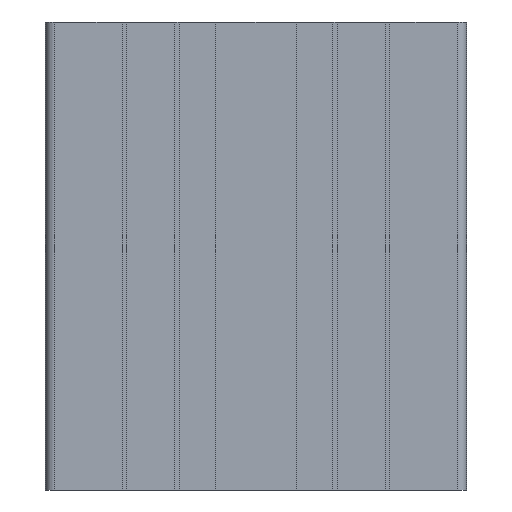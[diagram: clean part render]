
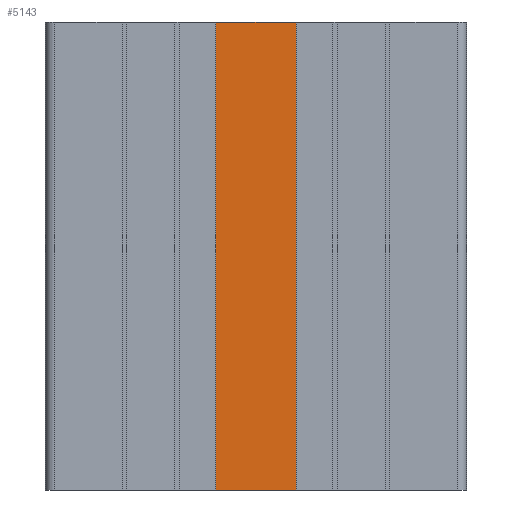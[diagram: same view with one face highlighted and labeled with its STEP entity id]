
A CAD part, front view. The second image highlights one B-rep face of the part: STEP entity #5143.
In plain terms, the highlighted planar face has unit normal (0, -1, 0).
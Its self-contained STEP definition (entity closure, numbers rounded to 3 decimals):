
#47 = VECTOR ( 'NONE', #49, 1000. ) ;
#49 = DIRECTION ( 'NONE',  ( 0., 0., 1. ) ) ;
#250 = VERTEX_POINT ( 'NONE', #10806 ) ;
#326 = CARTESIAN_POINT ( 'NONE',  ( 13.9, -66.5, -100. ) ) ;
#361 = CARTESIAN_POINT ( 'NONE',  ( 31.1, -66.5, -100. ) ) ;
#1566 = PLANE ( 'NONE',  #9010 ) ;
#1726 = ORIENTED_EDGE ( 'NONE', *, *, #10247, .F. ) ;
#2193 = FACE_OUTER_BOUND ( 'NONE', #12245, .T. ) ;
#2444 = CARTESIAN_POINT ( 'NONE',  ( 13.9, -66.5, -100. ) ) ;
#2546 = CARTESIAN_POINT ( 'NONE',  ( 13.9, -66.5, -100. ) ) ;
#2831 = DIRECTION ( 'NONE',  ( 0., 0., -1. ) ) ;
#2902 = LINE ( 'NONE', #11906, #12363 ) ;
#3208 = DIRECTION ( 'NONE',  ( 1., 0., 0. ) ) ;
#3415 = ORIENTED_EDGE ( 'NONE', *, *, #6552, .T. ) ;
#5143 = ADVANCED_FACE ( 'NONE', ( #2193 ), #1566, .F. ) ;
#5429 = DIRECTION ( 'NONE',  ( 0., 0., 1. ) ) ;
#6116 = ORIENTED_EDGE ( 'NONE', *, *, #12234, .F. ) ;
#6328 = LINE ( 'NONE', #2546, #47 ) ;
#6552 = EDGE_CURVE ( 'NONE', #9462, #15055, #12572, .T. ) ;
#8365 = EDGE_CURVE ( 'NONE', #10217, #9462, #9989, .T. ) ;
#8565 = VECTOR ( 'NONE', #5429, 1000. ) ;
#9010 = AXIS2_PLACEMENT_3D ( 'NONE', #326, #10272, #2831 ) ;
#9462 = VERTEX_POINT ( 'NONE', #14858 ) ;
#9989 = LINE ( 'NONE', #14309, #12866 ) ;
#10217 = VERTEX_POINT ( 'NONE', #2444 ) ;
#10247 = EDGE_CURVE ( 'NONE', #10217, #250, #6328, .T. ) ;
#10272 = DIRECTION ( 'NONE',  ( 0., 1., 0. ) ) ;
#10320 = ORIENTED_EDGE ( 'NONE', *, *, #8365, .T. ) ;
#10806 = CARTESIAN_POINT ( 'NONE',  ( 13.9, -66.5, 0. ) ) ;
#11894 = DIRECTION ( 'NONE',  ( 1., 0., 0. ) ) ;
#11906 = CARTESIAN_POINT ( 'NONE',  ( 13.9, -66.5, 0. ) ) ;
#12234 = EDGE_CURVE ( 'NONE', #250, #15055, #2902, .T. ) ;
#12245 = EDGE_LOOP ( 'NONE', ( #6116, #1726, #10320, #3415 ) ) ;
#12363 = VECTOR ( 'NONE', #3208, 1000. ) ;
#12572 = LINE ( 'NONE', #361, #8565 ) ;
#12866 = VECTOR ( 'NONE', #11894, 1000. ) ;
#14309 = CARTESIAN_POINT ( 'NONE',  ( 13.9, -66.5, -100. ) ) ;
#14858 = CARTESIAN_POINT ( 'NONE',  ( 31.1, -66.5, -100. ) ) ;
#15055 = VERTEX_POINT ( 'NONE', #15364 ) ;
#15364 = CARTESIAN_POINT ( 'NONE',  ( 31.1, -66.5, 0. ) ) ;
